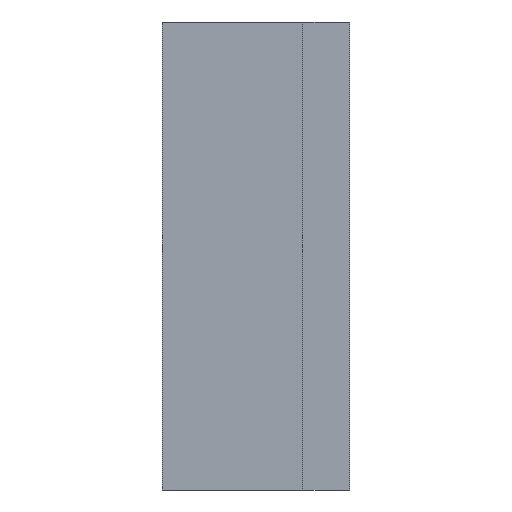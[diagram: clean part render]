
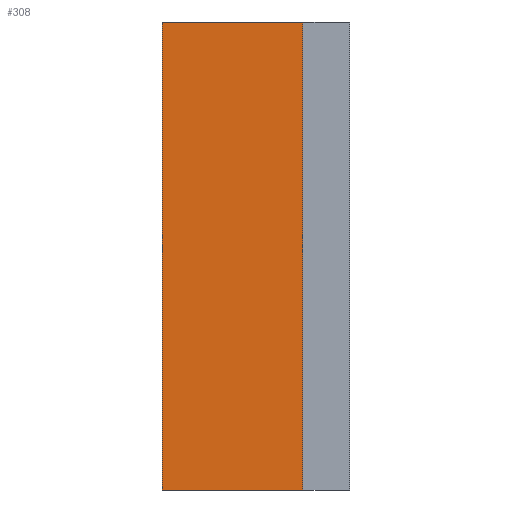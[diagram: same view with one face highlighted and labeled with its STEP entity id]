
A CAD part, left-side view. The second image highlights one B-rep face of the part: STEP entity #308.
In plain terms, the highlighted planar face has unit normal (-1, 0, 0).
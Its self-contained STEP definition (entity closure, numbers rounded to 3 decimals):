
#45=FACE_OUTER_BOUND('',#62,.T.);
#62=EDGE_LOOP('',(#229,#230,#231,#232));
#86=LINE('',#482,#115);
#93=LINE('',#499,#122);
#94=LINE('',#501,#123);
#95=LINE('',#502,#124);
#115=VECTOR('',#387,10.);
#122=VECTOR('',#402,10.);
#123=VECTOR('',#403,10.);
#124=VECTOR('',#404,10.);
#142=VERTEX_POINT('',#476);
#144=VERTEX_POINT('',#480);
#150=VERTEX_POINT('',#498);
#151=VERTEX_POINT('',#500);
#175=EDGE_CURVE('',#142,#144,#86,.T.);
#183=EDGE_CURVE('',#144,#150,#93,.T.);
#184=EDGE_CURVE('',#151,#150,#94,.T.);
#185=EDGE_CURVE('',#151,#142,#95,.T.);
#229=ORIENTED_EDGE('',*,*,#175,.T.);
#230=ORIENTED_EDGE('',*,*,#183,.T.);
#231=ORIENTED_EDGE('',*,*,#184,.F.);
#232=ORIENTED_EDGE('',*,*,#185,.T.);
#298=PLANE('',#345);
#308=ADVANCED_FACE('',(#45),#298,.T.);
#345=AXIS2_PLACEMENT_3D('',#497,#400,#401);
#387=DIRECTION('',(0.,0.,1.));
#400=DIRECTION('center_axis',(-1.,0.,0.));
#401=DIRECTION('ref_axis',(0.,0.,1.));
#402=DIRECTION('',(0.,1.,0.));
#403=DIRECTION('',(0.,0.,1.));
#404=DIRECTION('',(0.,-1.,0.));
#476=CARTESIAN_POINT('',(-21.,-2.,-10.));
#480=CARTESIAN_POINT('',(-21.,-2.,10.));
#482=CARTESIAN_POINT('',(-21.,-2.,-5.));
#497=CARTESIAN_POINT('Origin',(-21.,0.,-10.));
#498=CARTESIAN_POINT('',(-21.,4.,10.));
#499=CARTESIAN_POINT('',(-21.,0.,10.));
#500=CARTESIAN_POINT('',(-21.,4.,-10.));
#501=CARTESIAN_POINT('',(-21.,4.,-10.));
#502=CARTESIAN_POINT('',(-21.,0.,-10.));
